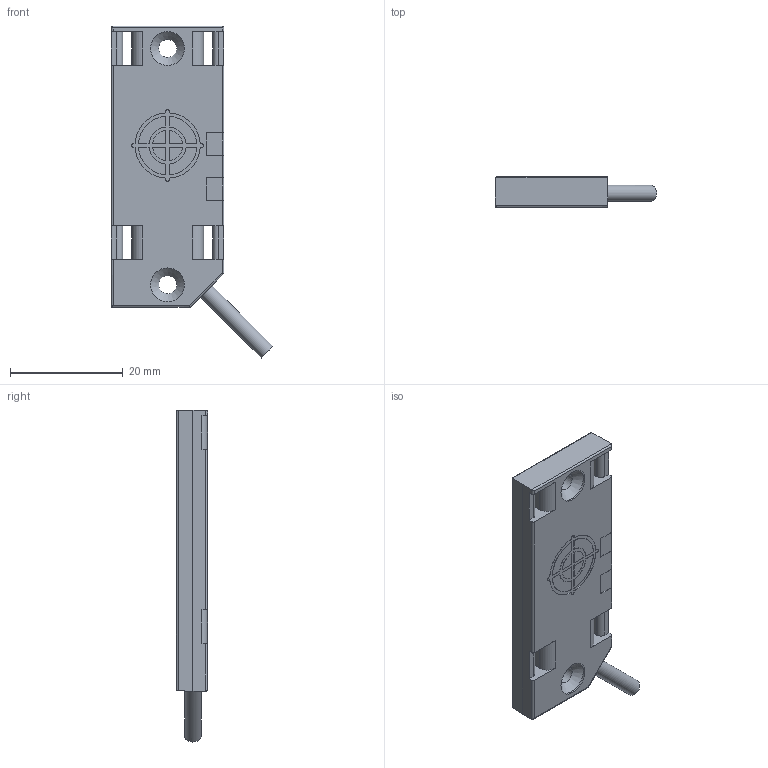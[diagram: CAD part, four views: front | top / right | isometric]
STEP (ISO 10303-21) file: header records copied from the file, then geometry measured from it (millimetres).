
FILE_DESCRIPTION (( 'STEP AP203' ), '1' );
FILE_NAME ('QF5-5.step', '2019-03-20T19:13:36', ( '' ), ( '' ), 'SwSTEP 2.0', 'SolidWorks 2017', '' );
FILE_SCHEMA (( 'CONFIG_CONTROL_DESIGN' ));
Length unit declared in the file: millimetre
Products named in the file (1): QF5-5
Bounding box: 28.67 x 5.53 x 59.02 mm (x, y, z)
Volume: 5066.6 mm3; surface area: 3176.2 mm2
Topology: 1 solids, 1 shells, 168 faces, 461 edges, 302 vertices
Faces by surface type: plane 101, cylinder 65, cone 2
Full cylindrical faces by diameter (mm): 2.9 x1, 3.2 x2, 4 x2, 6 x2
Entity records: 5365 total; most frequent: CARTESIAN_POINT 962, ORIENTED_EDGE 904, DIRECTION 887, EDGE_CURVE 452, LINE 329, VECTOR 329, VERTEX_POINT 302, AXIS2_PLACEMENT_3D 279
